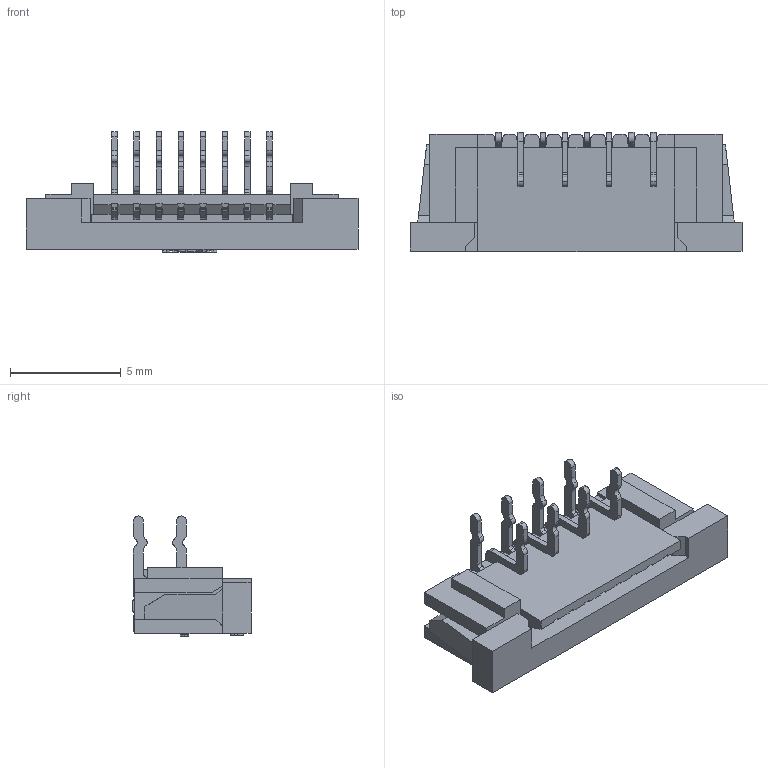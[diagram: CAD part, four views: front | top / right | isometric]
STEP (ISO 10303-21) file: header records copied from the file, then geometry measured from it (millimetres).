
FILE_DESCRIPTION (( 'STEP AP203' ), '1' );
FILE_NAME ('GT-F1001DR25-08SBT01.STEP', '2024-01-15T02:17:13', ( 'Microsoft' ), ( 'Microsoft' ), 'SwSTEP 2.0', 'SolidWorks 2023', '' );
FILE_SCHEMA (( 'CONFIG_CONTROL_DESIGN' ));
Products named in the file (1): GT-F1001DR25-08SBT01
Bounding box: 15 x 5.4 x 5.42 mm (x, y, z)
Volume: 158.2 mm3; surface area: 652.5 mm2
Topology: 9 solids, 9 shells, 1151 faces, 3341 edges, 2211 vertices
Faces by surface type: plane 769, cylinder 301, bspline 81
Entity records: 41956 total; most frequent: CARTESIAN_POINT 11417, ORIENTED_EDGE 6682, DIRECTION 5915, EDGE_CURVE 3341, LINE 2573, VECTOR 2573, VERTEX_POINT 2211, AXIS2_PLACEMENT_3D 1671
